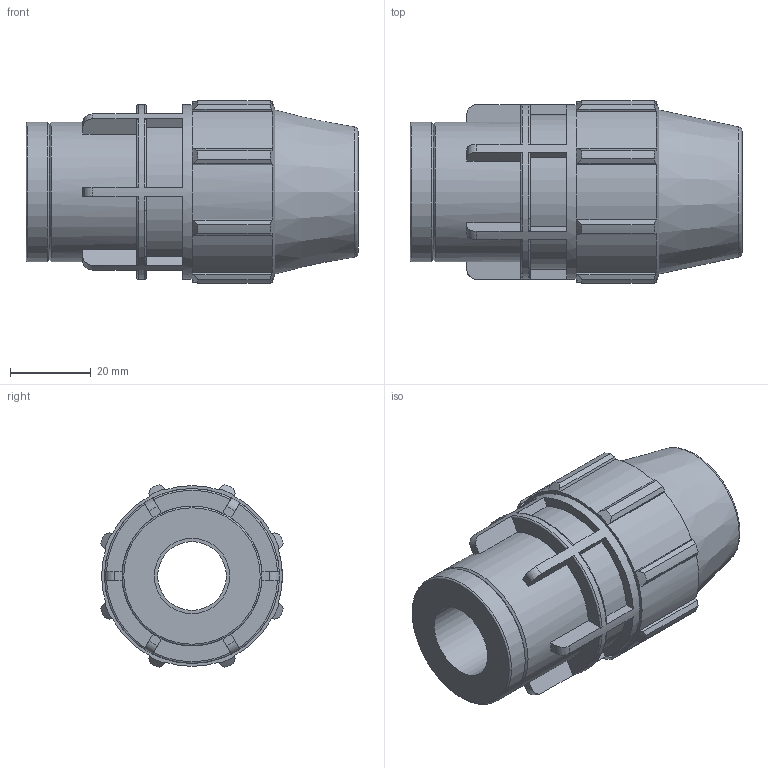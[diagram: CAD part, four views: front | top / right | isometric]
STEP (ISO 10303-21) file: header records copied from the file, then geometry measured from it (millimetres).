
FILE_DESCRIPTION(/* description */ ('PLASSON FEMALE ADAPTOR 1/2'''' - 1/2''''F'),/* implementation_level */ '2;1');
FILE_NAME(/* name */ 'C:\Dropbox\KIMPROJECTS-Inventor 2019\99-16-3568-Processing Inch\ASTM Compression 2021\0703M0\0703M0005005.ipt.stp',/* time_stamp */ '2021-08-26T12:30:35+03:00',/* author */ ('KIM'),/* organization */ (''),/* preprocessor_version */ 'ST-DEVELOPER v17.2',/* originating_system */ 'Autodesk Inventor 2019',/* authorisation */ '');
FILE_SCHEMA (('AUTOMOTIVE_DESIGN { 1 0 10303 214 3 1 1 }'));
Length unit declared in the file: inch
Products named in the file (1): 0703M0005005
Bounding box: 82.04 x 45.17 x 45.17 mm (x, y, z)
Volume: 70105.6 mm3; surface area: 19440.3 mm2
Topology: 1 solids, 1 shells, 148 faces, 420 edges, 284 vertices
Faces by surface type: plane 86, cylinder 28, torus 20, cone 14
Full cylindrical faces by diameter (mm): 16.96 x1, 18.631 x1, 21.2 x1, 34.564 x2, 43.205 x1
Entity records: 5308 total; most frequent: CARTESIAN_POINT 1241, ORIENTED_EDGE 840, DIRECTION 798, EDGE_CURVE 420, AXIS2_PLACEMENT_3D 297, VERTEX_POINT 284, LINE 204, VECTOR 204
